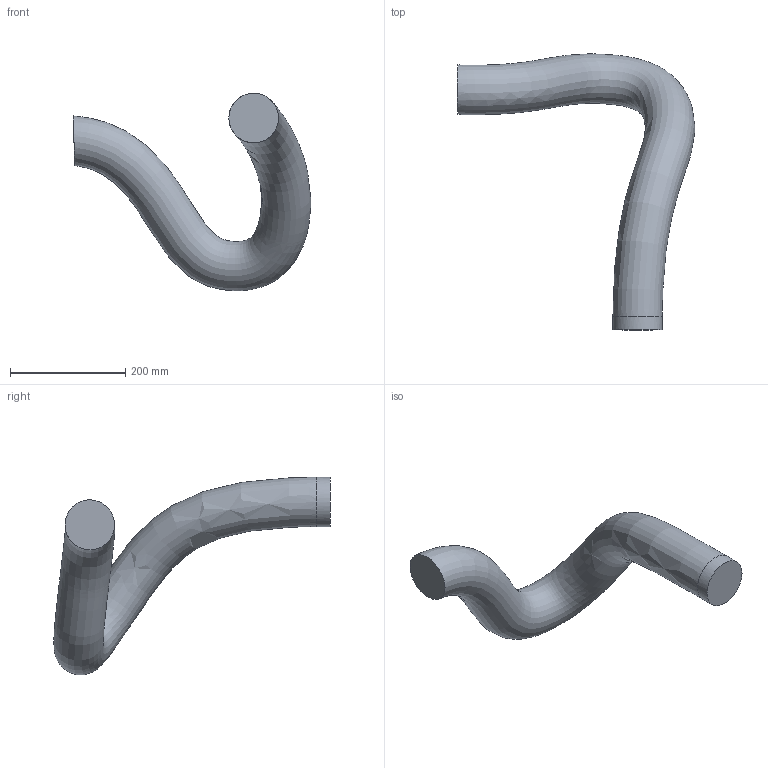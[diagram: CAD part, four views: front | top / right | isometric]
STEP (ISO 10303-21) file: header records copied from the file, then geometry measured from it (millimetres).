
FILE_DESCRIPTION (( 'STEP AP214' ), '1' );
FILE_NAME ('IRB7720_All-290_OC_00_LINK05_CABLE.step', '2026-01-28T12:33:01', ( '' ), ( '' ), 'SwSTEP 2.0', 'SolidWorks 2024', '' );
FILE_SCHEMA (( 'AUTOMOTIVE_DESIGN' ));
Length unit declared in the file: millimetre
Products named in the file (1): IRB7720_All-290_OC_00_LINK05_CABLE
Bounding box: 412.09 x 479.29 x 342.57 mm (x, y, z)
Volume: 5599124.9 mm3; surface area: 272201.9 mm2
Topology: 1 solids, 1 shells, 4 faces, 6 edges, 4 vertices
Faces by surface type: plane 2, bspline 1, cylinder 1
Full cylindrical faces by diameter (mm): 86 x1
Entity records: 43993 total; most frequent: CARTESIAN_POINT 43872, DIRECTION 10, UNCERTAINTY_MEASURE_WITH_UNIT 6, FACE_OUTER_BOUND 6, EDGE_LOOP 6, ORIENTED_EDGE 6, AXIS2_PLACEMENT_3D 5, FILL_AREA_STYLE 5
